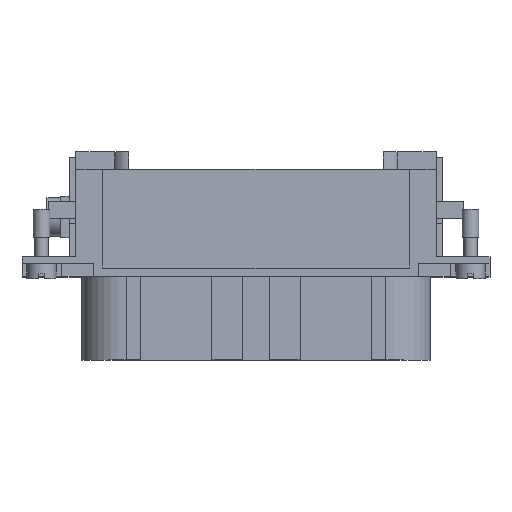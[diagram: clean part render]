
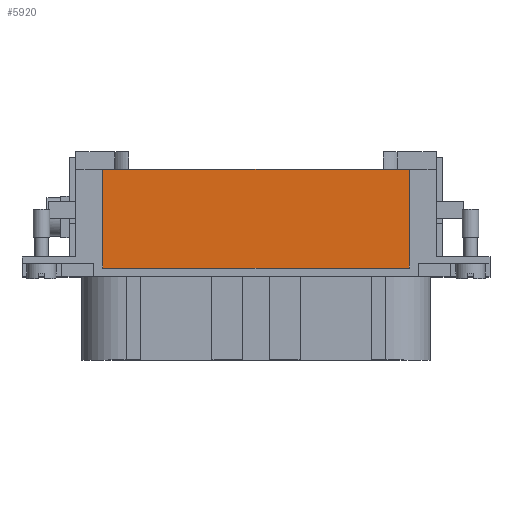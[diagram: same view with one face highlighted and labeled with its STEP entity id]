
A CAD part, top view. The second image highlights one B-rep face of the part: STEP entity #5920.
In plain terms, the highlighted planar face has unit normal (0, 0, 1).
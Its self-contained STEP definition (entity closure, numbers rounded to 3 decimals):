
#382 = AXIS2_PLACEMENT_3D ( 'NONE', #17407, #15704, #5383 ) ;
#1772 = CARTESIAN_POINT ( 'NONE',  ( 27.7, 1.6, 13.5 ) ) ;
#2090 = ORIENTED_EDGE ( 'NONE', *, *, #18518, .F. ) ;
#2675 = LINE ( 'NONE', #15756, #17526 ) ;
#2840 = EDGE_CURVE ( 'NONE', #10518, #10745, #2675, .T. ) ;
#2997 = CARTESIAN_POINT ( 'NONE',  ( 27.7, 19.4, 13.5 ) ) ;
#3998 = ORIENTED_EDGE ( 'NONE', *, *, #2840, .T. ) ;
#4611 = CARTESIAN_POINT ( 'NONE',  ( -27.7, 1.6, 13.5 ) ) ;
#5117 = CARTESIAN_POINT ( 'NONE',  ( -27.7, 19.4, 13.5 ) ) ;
#5383 = DIRECTION ( 'NONE',  ( 0., 1., 0. ) ) ;
#5920 = ADVANCED_FACE ( 'NONE', ( #10228 ), #19269, .F. ) ;
#5938 = EDGE_LOOP ( 'NONE', ( #3998, #13993, #2090, #11058 ) ) ;
#7103 = LINE ( 'NONE', #4611, #15091 ) ;
#7352 = DIRECTION ( 'NONE',  ( -1., 0., 0. ) ) ;
#8629 = LINE ( 'NONE', #20088, #21140 ) ;
#9838 = DIRECTION ( 'NONE',  ( 0., 1., 0. ) ) ;
#10228 = FACE_OUTER_BOUND ( 'NONE', #5938, .T. ) ;
#10479 = VERTEX_POINT ( 'NONE', #18267 ) ;
#10518 = VERTEX_POINT ( 'NONE', #2997 ) ;
#10552 = LINE ( 'NONE', #11827, #20420 ) ;
#10745 = VERTEX_POINT ( 'NONE', #5117 ) ;
#11058 = ORIENTED_EDGE ( 'NONE', *, *, #13218, .T. ) ;
#11827 = CARTESIAN_POINT ( 'NONE',  ( 27.7, 1.6, 13.5 ) ) ;
#13218 = EDGE_CURVE ( 'NONE', #18607, #10518, #8629, .T. ) ;
#13459 = DIRECTION ( 'NONE',  ( -1., 0., 0. ) ) ;
#13993 = ORIENTED_EDGE ( 'NONE', *, *, #19089, .F. ) ;
#15091 = VECTOR ( 'NONE', #19838, 1000. ) ;
#15704 = DIRECTION ( 'NONE',  ( 0., 0., -1. ) ) ;
#15756 = CARTESIAN_POINT ( 'NONE',  ( 27.7, 19.4, 13.5 ) ) ;
#17407 = CARTESIAN_POINT ( 'NONE',  ( 27.7, 1.6, 13.5 ) ) ;
#17526 = VECTOR ( 'NONE', #7352, 1000. ) ;
#18267 = CARTESIAN_POINT ( 'NONE',  ( -27.7, 1.6, 13.5 ) ) ;
#18518 = EDGE_CURVE ( 'NONE', #18607, #10479, #10552, .T. ) ;
#18607 = VERTEX_POINT ( 'NONE', #1772 ) ;
#19089 = EDGE_CURVE ( 'NONE', #10479, #10745, #7103, .T. ) ;
#19269 = PLANE ( 'NONE',  #382 ) ;
#19838 = DIRECTION ( 'NONE',  ( 0., 1., 0. ) ) ;
#20088 = CARTESIAN_POINT ( 'NONE',  ( 27.7, 1.6, 13.5 ) ) ;
#20420 = VECTOR ( 'NONE', #13459, 1000. ) ;
#21140 = VECTOR ( 'NONE', #9838, 1000. ) ;
